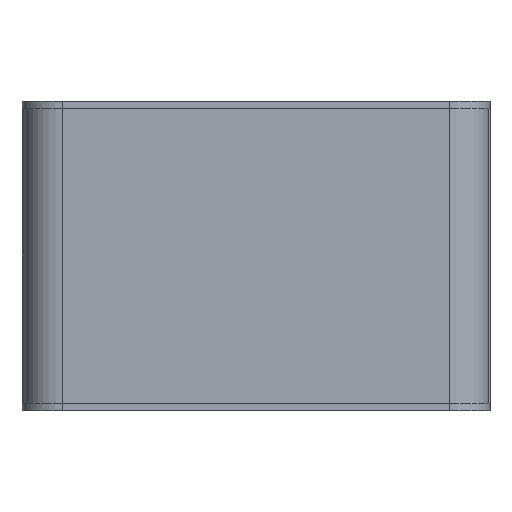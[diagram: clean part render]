
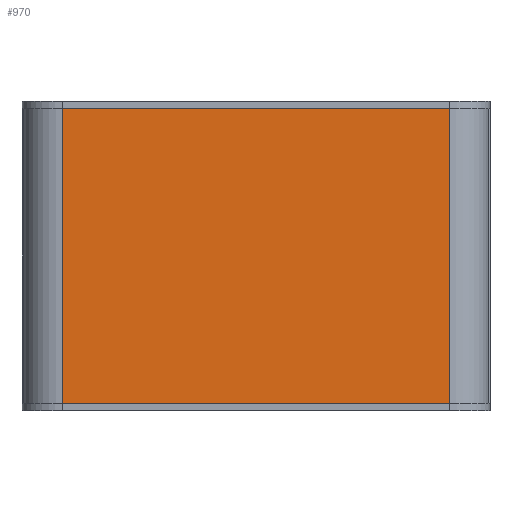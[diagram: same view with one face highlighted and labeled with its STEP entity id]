
A CAD part, front view. The second image highlights one B-rep face of the part: STEP entity #970.
In plain terms, the highlighted planar face has unit normal (0, -1, 0).
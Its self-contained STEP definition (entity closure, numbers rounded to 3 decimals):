
#26=LINE('',#1544,#110);
#27=LINE('',#1548,#111);
#28=LINE('',#1550,#112);
#29=LINE('',#1552,#113);
#110=VECTOR('',#1256,1000.);
#111=VECTOR('',#1261,1000.);
#112=VECTOR('',#1262,1000.);
#113=VECTOR('',#1263,1000.);
#199=PLANE('',#1094);
#297=ORIENTED_EDGE('',*,*,#543,.T.);
#298=ORIENTED_EDGE('',*,*,#544,.F.);
#299=ORIENTED_EDGE('',*,*,#545,.F.);
#300=ORIENTED_EDGE('',*,*,#541,.T.);
#541=EDGE_CURVE('',#672,#671,#26,.T.);
#543=EDGE_CURVE('',#671,#673,#27,.T.);
#544=EDGE_CURVE('',#674,#673,#28,.T.);
#545=EDGE_CURVE('',#672,#674,#29,.T.);
#671=VERTEX_POINT('',#1543);
#672=VERTEX_POINT('',#1545);
#673=VERTEX_POINT('',#1549);
#674=VERTEX_POINT('',#1551);
#812=EDGE_LOOP('',(#297,#298,#299,#300));
#886=FACE_BOUND('',#812,.T.);
#970=ADVANCED_FACE('',(#886),#199,.F.);
#1094=AXIS2_PLACEMENT_3D('',#1547,#1259,#1260);
#1256=DIRECTION('',(0.,0.,-1.));
#1259=DIRECTION('',(0.,1.,0.));
#1260=DIRECTION('',(0.,0.,1.));
#1261=DIRECTION('',(1.,0.,0.));
#1262=DIRECTION('',(0.,0.,-1.));
#1263=DIRECTION('',(1.,0.,0.));
#1543=CARTESIAN_POINT('',(-125.,-62.5,-100.));
#1544=CARTESIAN_POINT('',(-125.,-62.5,100.));
#1545=CARTESIAN_POINT('',(-125.,-62.5,100.));
#1547=CARTESIAN_POINT('',(-125.,-62.5,100.));
#1548=CARTESIAN_POINT('',(-125.,-62.5,-100.));
#1549=CARTESIAN_POINT('',(125.,-62.5,-100.));
#1550=CARTESIAN_POINT('',(125.,-62.5,100.));
#1551=CARTESIAN_POINT('',(125.,-62.5,100.));
#1552=CARTESIAN_POINT('',(-125.,-62.5,100.));
